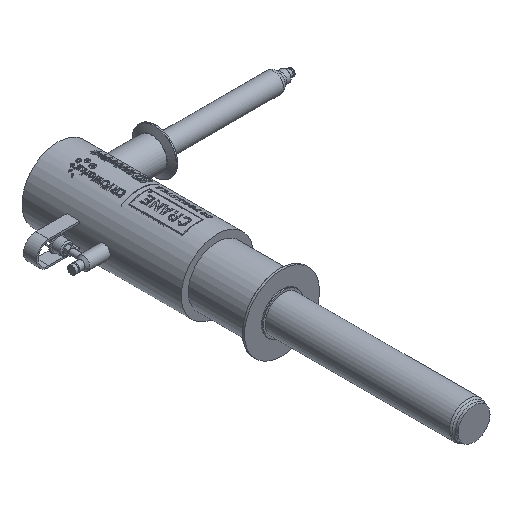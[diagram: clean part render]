
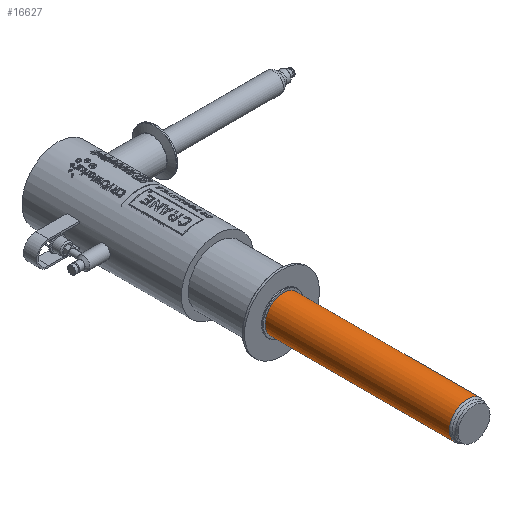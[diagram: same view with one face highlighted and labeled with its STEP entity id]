
A CAD part, isometric view. The second image highlights one B-rep face of the part: STEP entity #16627.
In plain terms, the highlighted cylindrical face has radius 35.56 mm (diameter 71.12 mm), a full revolution.
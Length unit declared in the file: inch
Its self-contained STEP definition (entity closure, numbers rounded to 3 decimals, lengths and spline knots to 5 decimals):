
#269 = ORIENTED_EDGE ( 'NONE', *, *, #23876, .T. ) ;
#1149 = CARTESIAN_POINT ( 'NONE',  ( 0., -14.331, 0. ) ) ;
#1373 = DIRECTION ( 'NONE',  ( 0., -1., 0. ) ) ;
#3515 = CYLINDRICAL_SURFACE ( 'NONE', #5499, 1.4 ) ;
#4627 = CIRCLE ( 'NONE', #25533, 1.4 ) ;
#5499 = AXIS2_PLACEMENT_3D ( 'NONE', #12652, #25629, #23629 ) ;
#8039 = EDGE_CURVE ( 'NONE', #21704, #21704, #4627, .T. ) ;
#9796 = CIRCLE ( 'NONE', #11638, 1.4 ) ;
#11615 = ORIENTED_EDGE ( 'NONE', *, *, #8039, .F. ) ;
#11638 = AXIS2_PLACEMENT_3D ( 'NONE', #16374, #1373, #25638 ) ;
#11846 = CARTESIAN_POINT ( 'NONE',  ( 1.4, -0.1, 0. ) ) ;
#12565 = DIRECTION ( 'NONE',  ( 1., 0., 0. ) ) ;
#12652 = CARTESIAN_POINT ( 'NONE',  ( 0., -15.86964, 0. ) ) ;
#16121 = VERTEX_POINT ( 'NONE', #11846 ) ;
#16374 = CARTESIAN_POINT ( 'NONE',  ( 0., -0.1, 0. ) ) ;
#16627 = ADVANCED_FACE ( 'NONE', ( #27925, #25205 ), #3515, .T. ) ;
#19287 = CARTESIAN_POINT ( 'NONE',  ( 1.4, -14.331, 0. ) ) ;
#20710 = DIRECTION ( 'NONE',  ( 0., -1., 0. ) ) ;
#20765 = EDGE_LOOP ( 'NONE', ( #269 ) ) ;
#21704 = VERTEX_POINT ( 'NONE', #19287 ) ;
#23629 = DIRECTION ( 'NONE',  ( 1., 0., 0. ) ) ;
#23876 = EDGE_CURVE ( 'NONE', #16121, #16121, #9796, .T. ) ;
#25205 = FACE_OUTER_BOUND ( 'NONE', #20765, .T. ) ;
#25533 = AXIS2_PLACEMENT_3D ( 'NONE', #1149, #20710, #12565 ) ;
#25629 = DIRECTION ( 'NONE',  ( 0., -1., 0. ) ) ;
#25638 = DIRECTION ( 'NONE',  ( 1., 0., 0. ) ) ;
#27318 = EDGE_LOOP ( 'NONE', ( #11615 ) ) ;
#27925 = FACE_OUTER_BOUND ( 'NONE', #27318, .T. ) ;
